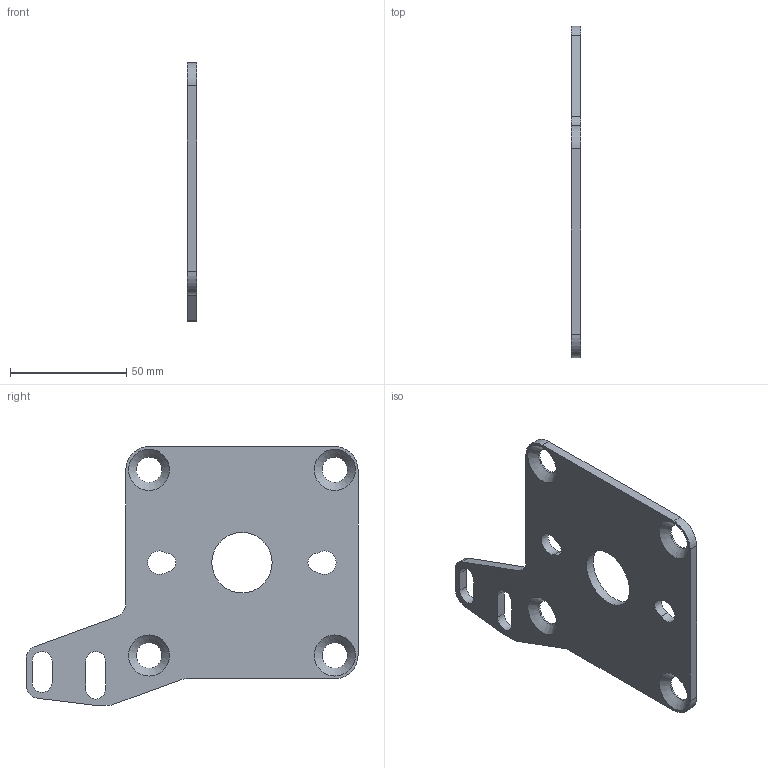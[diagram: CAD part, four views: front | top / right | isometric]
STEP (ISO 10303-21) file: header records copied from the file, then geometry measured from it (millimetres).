
FILE_DESCRIPTION(/* description */ ('MOUNTING PLATE WITH BRACKET FOR ROLLER TRANSFER'),/* implementation_level */ '2;1');
FILE_NAME(/* name */ '500-3117L.stp',/* time_stamp */ '2022-09-22T08:52:38+02:00',/* author */ ('ML'),/* organization */ ('CARRYLINE'),/* preprocessor_version */ 'ST-DEVELOPER v19.2',/* originating_system */ 'Autodesk Inventor 2023',/* authorisation */ '');
FILE_SCHEMA (('AUTOMOTIVE_DESIGN { 1 0 10303 214 3 1 1 }'));
Length unit declared in the file: millimetre
Products named in the file (1): 500-3117L
Bounding box: 4 x 143 x 111.5 mm (x, y, z)
Volume: 38891.5 mm3; surface area: 23106.8 mm2
Topology: 1 solids, 1 shells, 41 faces, 113 edges, 74 vertices
Faces by surface type: cylinder 22, plane 15, cone 4
Full cylindrical faces by diameter (mm): 11 x4, 26 x1
Entity records: 1402 total; most frequent: DIRECTION 245, CARTESIAN_POINT 229, ORIENTED_EDGE 226, EDGE_CURVE 113, AXIS2_PLACEMENT_3D 90, VERTEX_POINT 74, LINE 65, VECTOR 65
